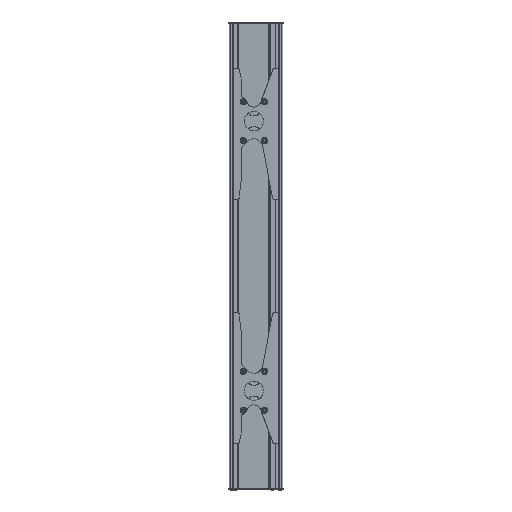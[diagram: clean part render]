
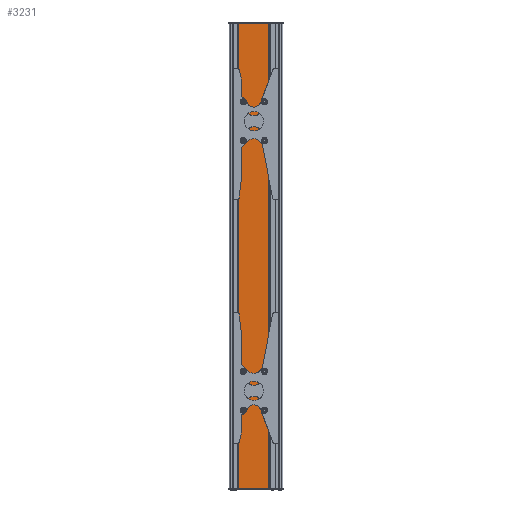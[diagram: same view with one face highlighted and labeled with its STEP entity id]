
A CAD part, left-side view. The second image highlights one B-rep face of the part: STEP entity #3231.
In plain terms, the highlighted planar face has unit normal (-1, 0, 0).
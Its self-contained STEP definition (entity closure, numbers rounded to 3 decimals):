
#2740=CARTESIAN_POINT('Vertex',(8.,90.,-1200.)) ;
#2743=CARTESIAN_POINT('Line Origine',(8.,90.,600.)) ;
#2747=CARTESIAN_POINT('Vertex',(8.,90.,1200.)) ;
#2933=CARTESIAN_POINT('Vertex',(8.,-65.,1200.)) ;
#2936=CARTESIAN_POINT('Line Origine',(8.,-65.,600.)) ;
#2940=CARTESIAN_POINT('Vertex',(8.,-65.,-1200.)) ;
#3210=CARTESIAN_POINT('Axis2P3D Location',(8.,-70.,1200.)) ;
#3215=CARTESIAN_POINT('Line Origine',(8.,12.5,1200.)) ;
#3220=CARTESIAN_POINT('Line Origine',(8.,12.5,-1200.)) ;
#2744=DIRECTION('Vector Direction',(0.,0.,1.)) ;
#2937=DIRECTION('Vector Direction',(0.,0.,-1.)) ;
#3211=DIRECTION('Axis2P3D Direction',(-1.,0.,-0.)) ;
#3212=DIRECTION('Axis2P3D XDirection',(0.,1.,0.)) ;
#3216=DIRECTION('Vector Direction',(0.,1.,0.)) ;
#3221=DIRECTION('Vector Direction',(0.,1.,0.)) ;
#3213=AXIS2_PLACEMENT_3D('Plane Axis2P3D',#3210,#3211,#3212) ;
#2745=VECTOR('Line Direction',#2744,1.) ;
#2938=VECTOR('Line Direction',#2937,1.) ;
#3217=VECTOR('Line Direction',#3216,1.) ;
#3222=VECTOR('Line Direction',#3221,1.) ;
#2749=EDGE_CURVE('',#2741,#2748,#2746,.T.) ;
#2942=EDGE_CURVE('',#2934,#2941,#2939,.T.) ;
#3219=EDGE_CURVE('',#2934,#2748,#3218,.T.) ;
#3224=EDGE_CURVE('',#2941,#2741,#3223,.T.) ;
#3214=PLANE('',#3213) ;
#3226=ORIENTED_EDGE('',*,*,#2942,.F.) ;
#3227=ORIENTED_EDGE('',*,*,#3219,.T.) ;
#3228=ORIENTED_EDGE('',*,*,#2749,.F.) ;
#3229=ORIENTED_EDGE('',*,*,#3224,.F.) ;
#3231=ADVANCED_FACE('PartBody',(#3230),#3214,.T.) ;
#3225=EDGE_LOOP('',(#3226,#3227,#3228,#3229)) ;
#3230=FACE_OUTER_BOUND('',#3225,.T.) ;
#2746=LINE('Line',#2743,#2745) ;
#2939=LINE('Line',#2936,#2938) ;
#3218=LINE('Line',#3215,#3217) ;
#3223=LINE('Line',#3220,#3222) ;
#2741=VERTEX_POINT('',#2740) ;
#2748=VERTEX_POINT('',#2747) ;
#2934=VERTEX_POINT('',#2933) ;
#2941=VERTEX_POINT('',#2940) ;
